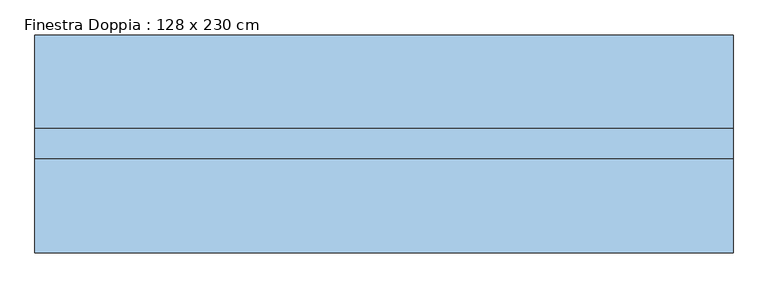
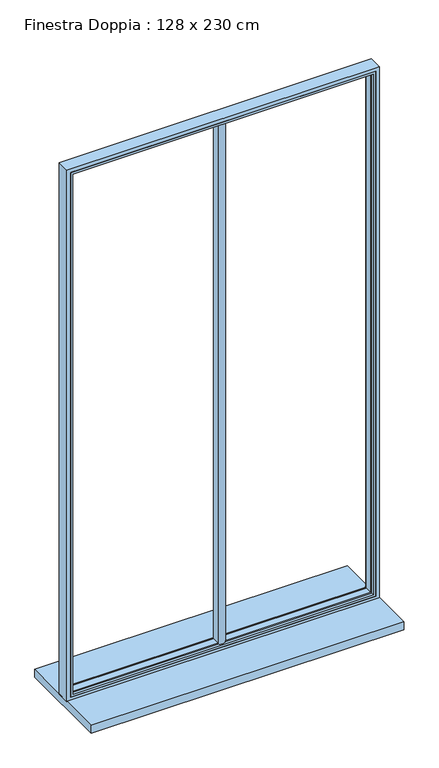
"""IFC4 building model written with IfcOpenShell, lengths in millimetres: window geometry, Finestra Doppia : 128 x 230 cm."""

from ifc_helpers import new_model, si_unit, point, frame, frame_2d, origin, place, context, project, spatial, polyline, circle_curve, ellipse_curve, trimmed, segment, composite_curve, outline, extrude, faceted_brep, source, transform, mapped, element, save
from ifc_brep_helpers import plane_surface, cylinder_surface, advanced_brep


def finestra_doppia_128_x_230_cm_ef977aeb(model_context):
    return source(origin(), model_context, "Body", "SolidModel", [
        extrude(outline(composite_curve([segment(polyline([(-15.0, -10.0), (-15.0, 20.0)]), True, "CONTINUOUS"), segment(trimmed(circle_curve(frame_2d((0.0, 7.0384974)), 19.8242415), [point((-15.0, 20.0))], [point((15.0, 20.0))], False, "CARTESIAN"), True, "CONTINUOUS"), segment(polyline([(15.0, 20.0), (15.0, -10.0)]), True, "CONTINUOUS"), segment(trimmed(circle_curve(frame_2d((0.0, 5.6850663)), 21.7030253), [point((15.0, -10.0))], [point((-15.0, -10.0))], False, "CARTESIAN"), True, "CONTINUOUS")], self_intersect=False)), frame((0.0, 0.0, 900.0), z_axis=(0.0, 0.0, 1.0), x_axis=(1.0, 0.0, 0.0)), (0.0, 0.0, 1.0), 2275.0349779),
        faceted_brep([(-625.0, -20.0, 3185.0349779), (-625.0, 20.0, 3185.0349779), (-625.0, 20.0, 915.0), (-625.0, -20.0, 915.0), (625.0, 20.0, 3185.0349779), (625.0, 20.0, 915.0), (-610.0, 20.0, 3170.0349779), (-610.0, 20.0, 930.0), (610.0, 20.0, 930.0), (610.0, 20.0, 3170.0349779), (625.0, -20.0, 915.0), (625.0, -20.0, 3185.0349779), (615.0, -20.0, 3175.0349779), (615.0, -20.0, 925.0), (-615.0, -20.0, 925.0), (-615.0, -20.0, 3175.0349779), (-615.0, -10.0, 3175.0349779), (-615.0, -10.0, 925.0), (615.0, -10.0, 925.0), (615.0, -10.0, 3175.0349779), (610.0, -10.0, 3170.0349779), (610.0, -10.0, 930.0), (-610.0, -10.0, 930.0), (-610.0, -10.0, 3170.0349779)], [[[0, 1, 2, 3]], [[4, 5, 2, 1], [6, 7, 8, 9]], [[3, 2, 5, 10]], [[0, 3, 10, 11], [12, 13, 14, 15]], [[16, 15, 14, 17]], [[17, 14, 13, 18]], [[16, 17, 18, 19], [20, 21, 22, 23]], [[6, 23, 22, 7]], [[7, 22, 21, 8]], [[10, 5, 4, 11]], [[18, 13, 12, 19]], [[8, 21, 20, 9]], [[11, 4, 1, 0]], [[19, 12, 15, 16]], [[9, 20, 23, 6]]]),
        advanced_brep(
        [(-640.0, 35.0, 3200.0), (-640.0, 35.0, 900.0), (-640.0, -20.0, 900.0), (-640.0, -20.0, 3200.0), (640.0, 35.0, 3200.0), (640.0, 35.0, 900.0), (-620.0, 35.0, 920.0), (620.0, 35.0, 920.0), (620.0, 35.0, 3180.0), (-620.0, 35.0, 3180.0), (640.0, -20.0, 900.0), (640.0, -20.0, 3200.0), (-625.0, -20.0, 3185.0), (625.0, -20.0, 3185.0), (625.0, -20.0, 915.0), (-625.0, -20.0, 915.0), (-625.0, 20.0, 3185.0), (-625.0, 20.0, 915.0), (625.0, 20.0, 915.0), (625.0, 20.0, 3185.0), (-615.0, 20.0, 3175.0), (615.0, 20.0, 3175.0), (615.0, 20.0, 925.0), (-615.0, 20.0, 925.0), (-615.0, 30.0, 3175.0), (-615.0, 30.0, 925.0), (615.0, 30.0, 925.0), (615.0, 30.0, 3175.0)],
        [
            (0, 1),
            (1, 2),
            (2, 3),
            (3, 0),
            (0, 4),
            (4, 5),
            (5, 1),
            (6, 7),
            (7, 8),
            (8, 9),
            (9, 6),
            (5, 10),
            (10, 2),
            (10, 11),
            (11, 3),
            (12, 13),
            (13, 14),
            (14, 15),
            (15, 12),
            (16, 12),
            (15, 17),
            (17, 16),
            (14, 18),
            (18, 17),
            (18, 19),
            (19, 16),
            (20, 21),
            (21, 22),
            (22, 23),
            (23, 20),
            (24, 20),
            (23, 25),
            (25, 24),
            (22, 26),
            (26, 25),
            (9, 24, ellipse_curve(frame((-620.0, 30.0, 3180.0), z_axis=(-0.7071067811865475, 0.0, -0.7071067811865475), x_axis=(-0.7071067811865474, 0.0, 0.7071067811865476)), 7.0710678, 5.0)),
            (25, 6, ellipse_curve(frame((-620.0, 30.0, 920.0), z_axis=(-0.7071067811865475, 0.0, 0.7071067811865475), x_axis=(0.7071067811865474, 0.0, 0.7071067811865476)), 7.0710678, 5.0)),
            (26, 7, ellipse_curve(frame((620.0, 30.0, 920.0), z_axis=(-0.7071067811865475, 0.0, -0.7071067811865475), x_axis=(-0.7071067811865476, 0.0, 0.7071067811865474)), 7.0710678, 5.0)),
            (4, 11),
            (13, 19),
            (21, 27),
            (27, 26),
            (27, 8, ellipse_curve(frame((620.0, 30.0, 3180.0), z_axis=(0.7071067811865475, 0.0, -0.7071067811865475), x_axis=(-0.7071067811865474, 0.0, -0.7071067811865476)), 7.0710678, 5.0)),
            (24, 27),
        ],
        [
            plane_surface(frame((-640.0, 0.0, 3200.0), z_axis=(-1.0, 0.0, 0.0), x_axis=(0.0, 0.0, -1.0))),
            plane_surface(frame((620.0, 35.0, 3180.0), z_axis=(0.0, 1.0, 0.0), x_axis=(-1.0, 0.0, 0.0))),
            plane_surface(frame((-640.0, 0.0, 900.0), z_axis=(0.0, 0.0, -1.0), x_axis=(1.0, 0.0, 0.0))),
            plane_surface(frame((640.0, -20.0, 3200.0), z_axis=(0.0, -1.0, 0.0), x_axis=(-1.0, 0.0, 0.0))),
            plane_surface(frame((-625.0, -20.0, 3185.0), z_axis=(1.0, 0.0, 0.0), x_axis=(0.0, 0.0, -1.0))),
            plane_surface(frame((-625.0, -20.0, 915.0), z_axis=(0.0, 0.0, 1.0), x_axis=(1.0, 0.0, 0.0))),
            plane_surface(frame((625.0, 20.0, 3185.0), z_axis=(0.0, -1.0, 0.0), x_axis=(-1.0, 0.0, 0.0))),
            plane_surface(frame((-615.0, 20.0, 3175.0), z_axis=(1.0, 0.0, 0.0), x_axis=(0.0, 0.0, -1.0))),
            plane_surface(frame((-615.0, 20.0, 925.0), z_axis=(0.0, 0.0, 1.0), x_axis=(1.0, 0.0, 0.0))),
            cylinder_surface(frame((-620.0, 30.0, 3200.0), z_axis=(0.0, 0.0, 1.0), x_axis=(1.0, 0.0, 0.0)), 5.0),
            cylinder_surface(frame((-640.0, 30.0, 920.0), z_axis=(-1.0, 0.0, 0.0), x_axis=(0.0, 0.0, 1.0)), 5.0),
            plane_surface(frame((640.0, 0.0, 900.0), z_axis=(1.0, 0.0, 0.0), x_axis=(0.0, 0.0, 1.0))),
            plane_surface(frame((625.0, -20.0, 915.0), z_axis=(-1.0, 0.0, 0.0), x_axis=(0.0, 0.0, 1.0))),
            plane_surface(frame((615.0, 20.0, 925.0), z_axis=(-1.0, 0.0, 0.0), x_axis=(0.0, 0.0, 1.0))),
            cylinder_surface(frame((620.0, 30.0, 900.0), z_axis=(0.0, 0.0, -1.0), x_axis=(-1.0, 0.0, 0.0)), 5.0),
            plane_surface(frame((640.0, 0.0, 3200.0), z_axis=(0.0, 0.0, 1.0), x_axis=(-1.0, 0.0, 0.0))),
            plane_surface(frame((625.0, -20.0, 3185.0), z_axis=(0.0, 0.0, -1.0), x_axis=(-1.0, 0.0, 0.0))),
            plane_surface(frame((615.0, 20.0, 3175.0), z_axis=(0.0, 0.0, -1.0), x_axis=(-1.0, 0.0, 0.0))),
            cylinder_surface(frame((640.0, 30.0, 3180.0), z_axis=(1.0, 0.0, 0.0), x_axis=(0.0, 0.0, -1.0)), 5.0),
        ],
        [
            (0, [[1, 2, 3, 4]]),
            (1, [[5, 6, 7, -1], [8, 9, 10, 11]]),
            (2, [[-2, -7, 12, 13]]),
            (3, [[-13, 14, 15, -3], [16, 17, 18, 19]]),
            (4, [[20, -19, 21, 22]]),
            (5, [[-21, -18, 23, 24]]),
            (6, [[-24, 25, 26, -22], [27, 28, 29, 30]]),
            (7, [[31, -30, 32, 33]]),
            (8, [[-32, -29, 34, 35]]),
            (9, [[36, -33, 37, -11]]),
            (10, [[-37, -35, 38, -8]]),
            (11, [[-12, -6, 39, -14]]),
            (12, [[-23, -17, 40, -25]]),
            (13, [[-34, -28, 41, 42]]),
            (14, [[-38, -42, 43, -9]]),
            (15, [[-39, -5, -4, -15]]),
            (16, [[-40, -16, -20, -26]]),
            (17, [[-41, -27, -31, 44]]),
            (18, [[-43, -44, -36, -10]]),
        ],
    ),
        extrude(outline(polyline([(640.0, -193.1372612), (-640.0, -193.1372612), (-640.0, 206.8627388), (640.0, 206.8627388), (640.0, -193.1372612)])), frame((0.0, 0.0, 870.0), z_axis=(0.0, 0.0, 1.0), x_axis=(1.0, 0.0, 0.0)), (0.0, 0.0, 1.0), 33.0),
    ])


if __name__ == "__main__":
    model = new_model("IFC4")
    model_context = context("Model", 3, world=origin())
    ifc_project = project(units=[si_unit("LENGTHUNIT", "METRE", prefix="MILLI")], contexts=[model_context])
    site = spatial("IfcSite", under=ifc_project)
    building = spatial("IfcBuilding", under=site)
    placement = place(None, origin())
    finestra_doppia_128_x_230_cm_shape = finestra_doppia_128_x_230_cm_ef977aeb(model_context)
    element("IfcWindow", 1, ObjectType="Finestra Doppia : 128 x 230 cm", at=placement, inside=building, context=model_context, shape_type="MappedRepresentation", body=[
        mapped(finestra_doppia_128_x_230_cm_shape, transform((0.0, 0.0, 0.0), x_axis=(1.0, 0.0, 0.0), y_axis=(0.0, 1.0, 0.0), z_axis=(0.0, 0.0, 1.0))),
    ])
    save(model, "model.ifc")
